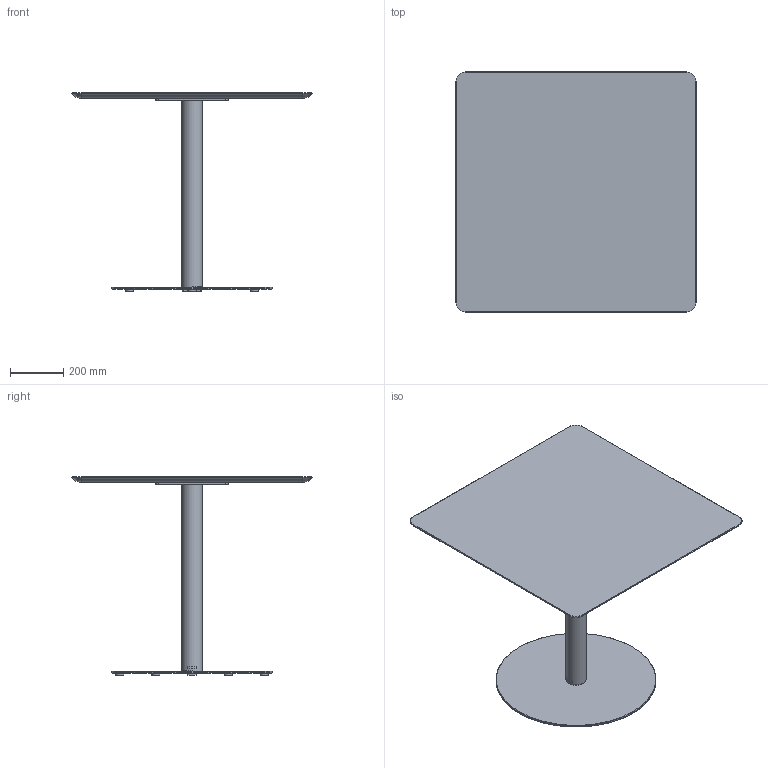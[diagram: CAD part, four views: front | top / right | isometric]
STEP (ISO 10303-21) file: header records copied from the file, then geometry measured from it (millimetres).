
FILE_DESCRIPTION( ('This file contains a STEP AP42 implementation' ,'as created by ZW3D STEP Interface translator.') ,'2;1' );
FILE_NAME( 'Henri - B_Rond - F3 - M1 - 900 x 900 x 750.stp' ,'24 912.154229', (''), ('ZWCAD Software Co.'), 'Version 1.0', 'ZW3D to STEP translator', '' );
FILE_SCHEMA(('AUTOMOTIVE_DESIGN { 1 0 10303 214 1 1 1 1 }'));
Length unit declared in the file: millimetre
Products named in the file (14): 0; PIED BISTROT PARAMETRIQUE_; COLONNE ACIER Ø76 V.02_; TUB-D076-02_; PLA-R76B-01_; CROIX ACIER 370 V.02_; CRX-X370-02_; SOCLE ACIER C Ø600 V.02_; SCL-D600-02_; PLA-R30A-01_; PLA-R30A-01; WUERTH 0276063020 Euro-screw 6.3x2 Verzinkt_; PLATEAU BISTROT PARAMETRIQUE_; insert_m6_13_
Assembly tree (24 placements, depth 3):
  0
  PIED BISTROT PARAMETRIQUE_
    COLONNE ACIER Ø76 V.02_
      TUB-D076-02_
      PLA-R76B-01_  x2
    CROIX ACIER 370 V.02_
      CRX-X370-02_
    SOCLE ACIER C Ø600 V.02_
      SCL-D600-02_
      PLA-R30A-01_
      PLA-R30A-01  x5
    WUERTH 0276063020 Euro-screw 6.3x2 Verzinkt_
    PLATEAU BISTROT PARAMETRIQUE_
      insert_m6_13_  x8
Bounding box: 900 x 900 x 744 mm (x, y, z)
Volume: 18845504.7 mm3; surface area: 2750648.5 mm2
Topology: 21 solids, 21 shells, 524 faces, 1273 edges, 802 vertices
Faces by surface type: plane 250, bspline 125, cylinder 103, cone 45, torus 1
Full cylindrical faces by diameter (mm): 4.88 x1, 6 x8, 6.3 x1, 8 x47, 12 x2, 14 x2, 30 x6, 72 x1, 76 x1, 600 x1
Entity records: 11764 total; most frequent: CARTESIAN_POINT 3340, ORIENTED_EDGE 1526, DIRECTION 1424, EDGE_CURVE 763, VERTEX_POINT 490, AXIS2_PLACEMENT_3D 478, VECTOR 468, LINE 468
